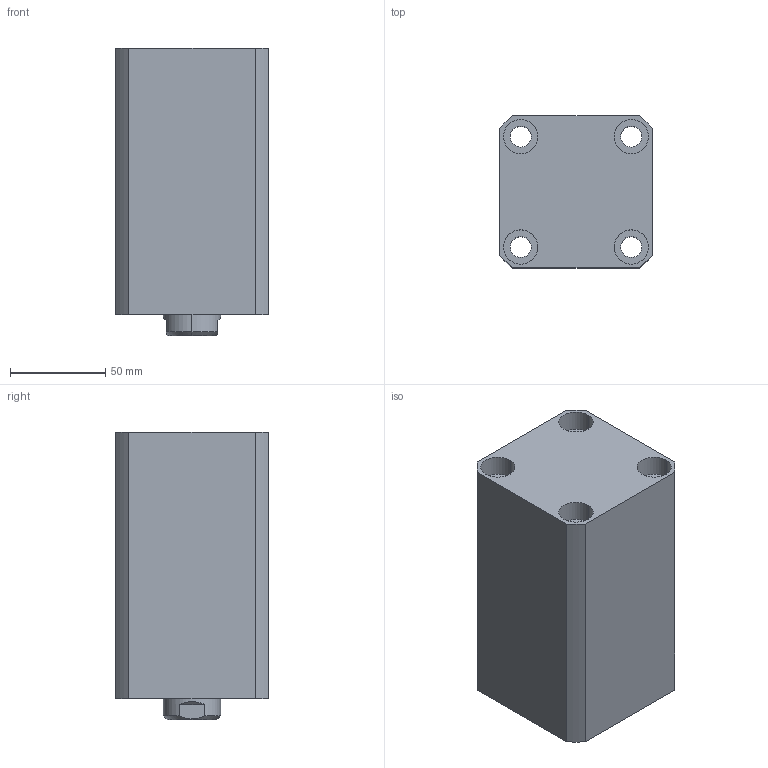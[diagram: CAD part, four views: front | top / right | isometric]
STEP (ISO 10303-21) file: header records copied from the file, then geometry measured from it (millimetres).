
FILE_DESCRIPTION (( 'STEP AP203' ), '1' );
FILE_NAME ('CHTB-SDMA50-80N.STEP', '2018-05-19T02:42:21', ( '' ), ( '' ), 'SwSTEP 2.0', 'SolidWorks 2015', '' );
FILE_SCHEMA (( 'CONFIG_CONTROL_DESIGN' ));
Length unit declared in the file: millimetre
Products named in the file (5): CHTB-SDMA50-80N; 掛极SDMA50-80N; CHTM-SDMA50QG; 活塞杆SDMA50-80N; M6
Assembly tree (5 placements, depth 2):
  CHTB-SDMA50-80N
    掛极SDMA50-80N
    活塞杆SDMA50-80N
    CHTM-SDMA50QG
    M6  x2
Bounding box: 80 x 80 x 151 mm (x, y, z)
Volume: 709386.2 mm3; surface area: 135000.8 mm2
Topology: 5 solids, 5 shells, 270 faces, 703 edges, 464 vertices
Faces by surface type: cylinder 139, plane 58, cone 31, bspline 26, torus 16
Entity records: 14133 total; most frequent: CARTESIAN_POINT 8131, ORIENTED_EDGE 1208, DIRECTION 1054, EDGE_CURVE 604, AXIS2_PLACEMENT_3D 433, VERTEX_POINT 403, EDGE_LOOP 277, ADVANCED_FACE 235
